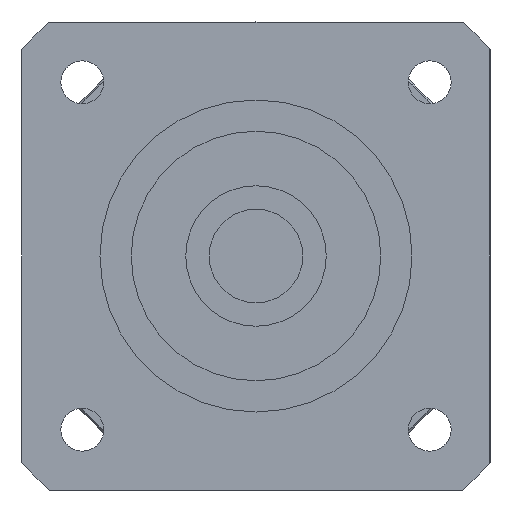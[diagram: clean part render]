
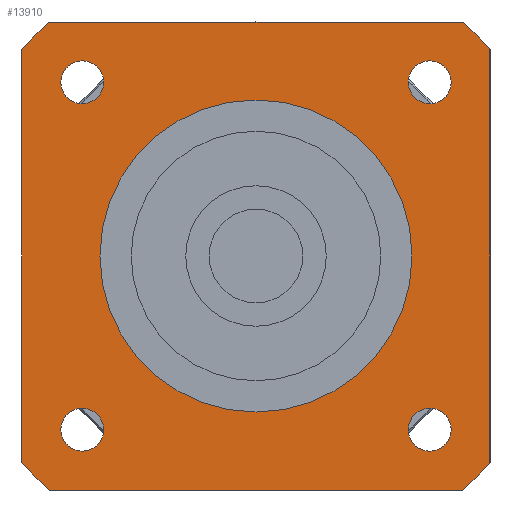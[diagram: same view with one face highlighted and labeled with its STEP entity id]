
A CAD part, left-side view. The second image highlights one B-rep face of the part: STEP entity #13910.
In plain terms, the highlighted planar face has unit normal (-1, 0, 0) as drawn and (0, 0, -1) by its records, which use the part's own axes.
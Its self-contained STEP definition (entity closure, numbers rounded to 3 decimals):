
#9120=CARTESIAN_POINT('',(-19.524,22.274,-35.));
#9130=VERTEX_POINT('',#9120);
#9210=CARTESIAN_POINT('',(-25.024,22.274,-35.));
#9220=VERTEX_POINT('',#9210);
#9250=CARTESIAN_POINT('',(-22.274,22.274,-35.));
#9260=DIRECTION('',(0.,0.,-1.));
#9270=DIRECTION('',(-1.,0.,0.));
#9280=AXIS2_PLACEMENT_3D('',#9250,#9260,#9270);
#9290=CIRCLE('',#9280,2.75);
#9300=EDGE_CURVE('',#9130,#9220,#9290,.T.);
#12280=CARTESIAN_POINT('',(20.,0.,-35.));
#12290=VERTEX_POINT('',#12280);
#12320=CARTESIAN_POINT('',(0.,0.,
-35.));
#12330=DIRECTION('',(0.,0.,1.));
#12340=DIRECTION('',(0.,1.,0.));
#12350=AXIS2_PLACEMENT_3D('',#12320,#12330,#12340);
#12360=CIRCLE('',#12350,20.);
#12370=CARTESIAN_POINT('',(0.,20.,-35.));
#12380=VERTEX_POINT('',#12370);
#12390=EDGE_CURVE('',#12290,#12380,#12360,.T.);
#12410=CARTESIAN_POINT('',(-20.,0.,-35.));
#12420=VERTEX_POINT('',#12410);
#12430=EDGE_CURVE('',#12380,#12420,#12360,.T.);
#12560=CARTESIAN_POINT('',(30.,30.,-35.));
#12570=DIRECTION('',(0.,0.,-1.));
#12580=DIRECTION('',(1.,0.,0.));
#12590=AXIS2_PLACEMENT_3D('',#12560,#12570,#12580);
#12600=PLANE('',#12590);
#12610=CARTESIAN_POINT('',(-22.274,-22.274,-35.));
#12620=DIRECTION('',(0.,0.,-1.));
#12630=DIRECTION('',(0.,-1.,0.));
#12640=AXIS2_PLACEMENT_3D('',#12610,#12620,#12630);
#12650=CIRCLE('',#12640,2.75);
#12660=CARTESIAN_POINT('',(-19.564,-22.743,-35.));
#12670=VERTEX_POINT('',#12660);
#12680=CARTESIAN_POINT('',(-22.274,-25.024,-35.));
#12690=VERTEX_POINT('',#12680);
#12700=EDGE_CURVE('',#12670,#12690,#12650,.T.);
#12710=ORIENTED_EDGE('',*,*,#12700,.F.);
#12720=CARTESIAN_POINT('',(-22.274,-19.524,-35.));
#12730=VERTEX_POINT('',#12720);
#12740=EDGE_CURVE('',#12690,#12730,#12650,.T.);
#12750=ORIENTED_EDGE('',*,*,#12740,.F.);
#12760=EDGE_CURVE('',#12730,#12670,#12650,.T.);
#12770=ORIENTED_EDGE('',*,*,#12760,.F.);
#12780=EDGE_LOOP('',(#12770,#12750,#12710));
#12790=FACE_BOUND('',#12780,.T.);
#12800=EDGE_CURVE('',#12420,#12290,#12360,.T.);
#12810=ORIENTED_EDGE('',*,*,#12800,.T.);
#12820=ORIENTED_EDGE('',*,*,#12430,.T.);
#12830=ORIENTED_EDGE('',*,*,#12390,.T.);
#12840=EDGE_LOOP('',(#12830,#12820,#12810));
#12850=FACE_BOUND('',#12840,.T.);
#12860=CARTESIAN_POINT('',(22.274,-22.274,-35.));
#12870=DIRECTION('',(0.,0.,-1.));
#12880=DIRECTION('',(1.,0.,0.));
#12890=AXIS2_PLACEMENT_3D('',#12860,#12870,#12880);
#12900=CIRCLE('',#12890,2.75);
#12910=CARTESIAN_POINT('',(25.024,-22.274,-35.));
#12920=VERTEX_POINT('',#12910);
#12930=CARTESIAN_POINT('',(19.524,-22.274,-35.));
#12940=VERTEX_POINT('',#12930);
#12950=EDGE_CURVE('',#12920,#12940,#12900,.T.);
#12960=ORIENTED_EDGE('',*,*,#12950,.F.);
#12970=EDGE_CURVE('',#12940,#12920,#12900,.T.);
#12980=ORIENTED_EDGE('',*,*,#12970,.F.);
#12990=EDGE_LOOP('',(#12980,#12960));
#13000=FACE_BOUND('',#12990,.T.);
#13010=CARTESIAN_POINT('',(22.274,22.274,-35.));
#13020=DIRECTION('',(0.,0.,-1.));
#13030=DIRECTION('',(0.,1.,0.));
#13040=AXIS2_PLACEMENT_3D('',#13010,#13020,#13030);
#13050=CIRCLE('',#13040,2.75);
#13060=CARTESIAN_POINT('',(22.274,25.024,-35.));
#13070=VERTEX_POINT('',#13060);
#13080=CARTESIAN_POINT('',(22.274,19.524,-35.));
#13090=VERTEX_POINT('',#13080);
#13100=EDGE_CURVE('',#13070,#13090,#13050,.T.);
#13110=ORIENTED_EDGE('',*,*,#13100,.F.);
#13120=EDGE_CURVE('',#13090,#13070,#13050,.T.);
#13130=ORIENTED_EDGE('',*,*,#13120,.F.);
#13140=EDGE_LOOP('',(#13130,#13110));
#13150=FACE_BOUND('',#13140,.T.);
#13160=CARTESIAN_POINT('',(0.,0.,
-35.));
#13170=DIRECTION('',(0.,0.,-1.));
#13180=DIRECTION('',(1.,0.,0.));
#13190=AXIS2_PLACEMENT_3D('',#13160,#13170,#13180);
#13200=CIRCLE('',#13190,40.);
#13210=CARTESIAN_POINT('',(-30.,26.458,-35.));
#13220=VERTEX_POINT('',#13210);
#13230=CARTESIAN_POINT('',(-26.458,30.,-35.));
#13240=VERTEX_POINT('',#13230);
#13250=EDGE_CURVE('',#13220,#13240,#13200,.T.);
#13260=ORIENTED_EDGE('',*,*,#13250,.T.);
#13270=CARTESIAN_POINT('',(-30.,-30.,-35.));
#13280=DIRECTION('',(0.,1.,0.));
#13290=VECTOR('',#13280,1000.);
#13300=LINE('',#13270,#13290);
#13310=CARTESIAN_POINT('',(-30.,-26.458,-35.));
#13320=VERTEX_POINT('',#13310);
#13330=EDGE_CURVE('',#13320,#13220,#13300,.T.);
#13340=ORIENTED_EDGE('',*,*,#13330,.T.);
#13350=CARTESIAN_POINT('',(0.,0.,
-35.));
#13360=DIRECTION('',(0.,0.,-1.));
#13370=DIRECTION('',(1.,0.,0.));
#13380=AXIS2_PLACEMENT_3D('',#13350,#13360,#13370);
#13390=CIRCLE('',#13380,40.);
#13400=CARTESIAN_POINT('',(-26.458,-30.,-35.));
#13410=VERTEX_POINT('',#13400);
#13420=EDGE_CURVE('',#13410,#13320,#13390,.T.);
#13430=ORIENTED_EDGE('',*,*,#13420,.T.);
#13440=CARTESIAN_POINT('',(30.,-30.,-35.));
#13450=DIRECTION('',(-1.,0.,0.));
#13460=VECTOR('',#13450,1000.);
#13470=LINE('',#13440,#13460);
#13480=CARTESIAN_POINT('',(26.458,-30.,-35.));
#13490=VERTEX_POINT('',#13480);
#13500=EDGE_CURVE('',#13490,#13410,#13470,.T.);
#13510=ORIENTED_EDGE('',*,*,#13500,.T.);
#13520=CARTESIAN_POINT('',(0.,0.,
-35.));
#13530=DIRECTION('',(0.,0.,-1.));
#13540=DIRECTION('',(1.,0.,0.));
#13550=AXIS2_PLACEMENT_3D('',#13520,#13530,#13540);
#13560=CIRCLE('',#13550,40.);
#13570=CARTESIAN_POINT('',(30.,-26.458,-35.));
#13580=VERTEX_POINT('',#13570);
#13590=EDGE_CURVE('',#13580,#13490,#13560,.T.);
#13600=ORIENTED_EDGE('',*,*,#13590,.T.);
#13610=CARTESIAN_POINT('',(30.,30.,-35.));
#13620=DIRECTION('',(0.,-1.,0.));
#13630=VECTOR('',#13620,1000.);
#13640=LINE('',#13610,#13630);
#13650=CARTESIAN_POINT('',(30.,26.458,-35.));
#13660=VERTEX_POINT('',#13650);
#13670=EDGE_CURVE('',#13660,#13580,#13640,.T.);
#13680=ORIENTED_EDGE('',*,*,#13670,.T.);
#13690=CARTESIAN_POINT('',(0.,0.,
-35.));
#13700=DIRECTION('',(0.,0.,-1.));
#13710=DIRECTION('',(1.,0.,0.));
#13720=AXIS2_PLACEMENT_3D('',#13690,#13700,#13710);
#13730=CIRCLE('',#13720,40.);
#13740=CARTESIAN_POINT('',(26.458,30.,-35.));
#13750=VERTEX_POINT('',#13740);
#13760=EDGE_CURVE('',#13750,#13660,#13730,.T.);
#13770=ORIENTED_EDGE('',*,*,#13760,.T.);
#13780=CARTESIAN_POINT('',(-30.,30.,-35.));
#13790=DIRECTION('',(1.,0.,0.));
#13800=VECTOR('',#13790,1000.);
#13810=LINE('',#13780,#13800);
#13820=EDGE_CURVE('',#13240,#13750,#13810,.T.);
#13830=ORIENTED_EDGE('',*,*,#13820,.T.);
#13840=EDGE_LOOP('',(#13830,#13770,#13680,#13600,#13510,#13430,#13340,
#13260));
#13850=FACE_OUTER_BOUND('',#13840,.T.);
#13860=EDGE_CURVE('',#9220,#9130,#9290,.T.);
#13870=ORIENTED_EDGE('',*,*,#13860,.F.);
#13880=ORIENTED_EDGE('',*,*,#9300,.F.);
#13890=EDGE_LOOP('',(#13880,#13870));
#13900=FACE_BOUND('',#13890,.T.);
#13910=ADVANCED_FACE('',(#12790,#12850,#13000,#13150,#13850,#13900),
#12600,.T.);
